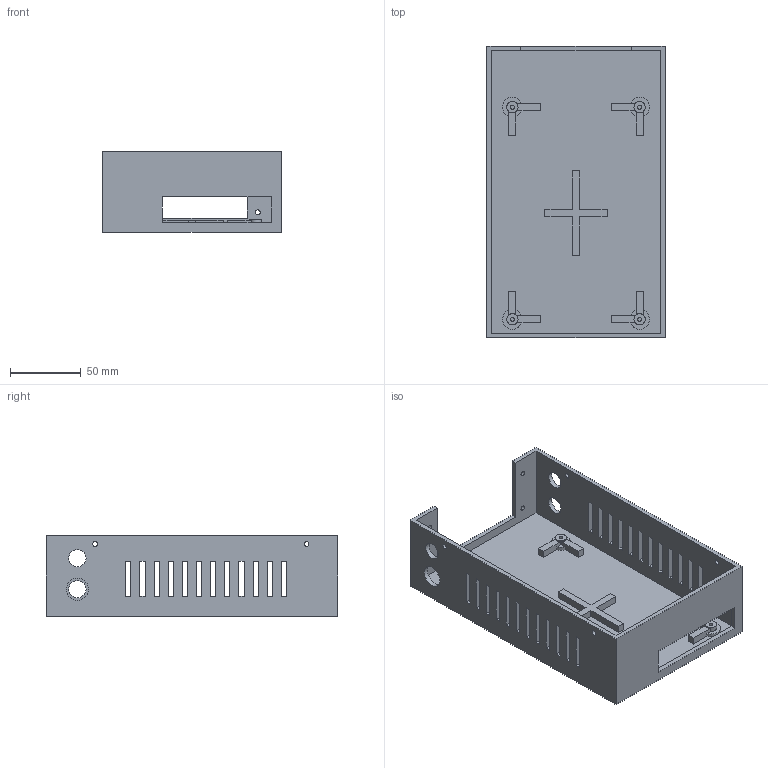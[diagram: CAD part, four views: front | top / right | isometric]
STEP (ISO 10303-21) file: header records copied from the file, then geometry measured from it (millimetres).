
FILE_DESCRIPTION(('Open CASCADE Model'),'2;1');
FILE_NAME('Open CASCADE Shape Model','2026-07-28T11:12:05',('Author'),( 'Open CASCADE'),'Open CASCADE STEP processor 7.9','Open CASCADE 7.9' ,'Unknown');
FILE_SCHEMA(('AUTOMOTIVE_DESIGN { 1 0 10303 214 1 1 1 1 }'));
Length unit declared in the file: millimetre
Products named in the file (1): Open CASCADE STEP translator 7.9 1
Bounding box: 126 x 206 x 56.8 mm (x, y, z)
Volume: 177466.9 mm3; surface area: 117668.2 mm2
Topology: 1 solids, 1 shells, 203 faces, 576 edges, 384 vertices
Faces by surface type: plane 175, cylinder 28
Full cylindrical faces by diameter (mm): 2.8 x4, 3.4 x8, 8 x4, 12.2 x3, 15.6 x1
Entity records: 13770 total; most frequent: CARTESIAN_POINT 3074, DIRECTION 1650, ORIENTED_EDGE 1152, PCURVE 1152, DEFINITIONAL_REPRESENTATION 1152, LINE 1066, VECTOR 1066, EDGE_CURVE 576
